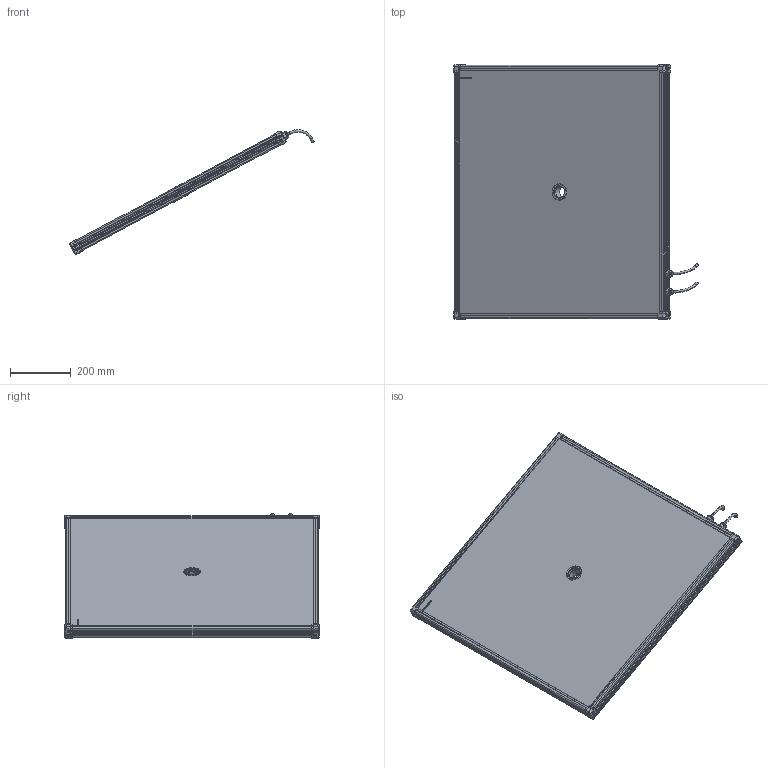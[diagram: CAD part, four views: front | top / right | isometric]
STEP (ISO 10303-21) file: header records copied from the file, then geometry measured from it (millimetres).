
FILE_DESCRIPTION (( 'STEP AP214' ), '1' );
FILE_NAME ('EFFI-FD-750-800-ZZZ-2M12P.STEP', '2021-06-21T10:13:16', ( '' ), ( '' ), 'SwSTEP 2.0', 'SolidWorks 2021', '' );
FILE_SCHEMA (( 'AUTOMOTIVE_DESIGN' ));
Length unit declared in the file: millimetre
Products named in the file (13): petite joue; profile Y_PERCE; profile X_PERCE; 001036; Pièce13^EFFI-FD-XXX-YYY-ZZZ (2 connecteurs) M12 POWER Ø39; 000590; assemblage Ø39; 001035; EFFI-FD-750-800-ZZZ-2M12P; M12 power; petite joue + vis; 000629
Assembly tree (20 placements, depth 3):
  EFFI-FD-750-800-ZZZ-2M12P
    profile X_PERCE  x2
    profile Y_PERCE
    profile Y_PERCE
    Pièce13^EFFI-FD-XXX-YYY-ZZZ (2 connecteurs) M12 POWER Ø39
    petite joue + vis  x4
      petite joue
      000629
    M12 power  x2
    assemblage Ø39
      001036
      000590  x3
      001035
Bounding box: 804.91 x 839 x 410.83 mm (x, y, z)
Volume: 22969846.5 mm3; surface area: 1820487.1 mm2
Topology: 22 solids, 28 shells, 3952 faces, 10521 edges, 6923 vertices
Faces by surface type: plane 2471, cylinder 710, bspline 591, cone 154, torus 26
Entity records: 55191 total; most frequent: CARTESIAN_POINT 22500, ORIENTED_EDGE 6872, DIRECTION 5519, EDGE_CURVE 3438, LINE 2427, VECTOR 2427, VERTEX_POINT 2270, AXIS2_PLACEMENT_3D 1546
